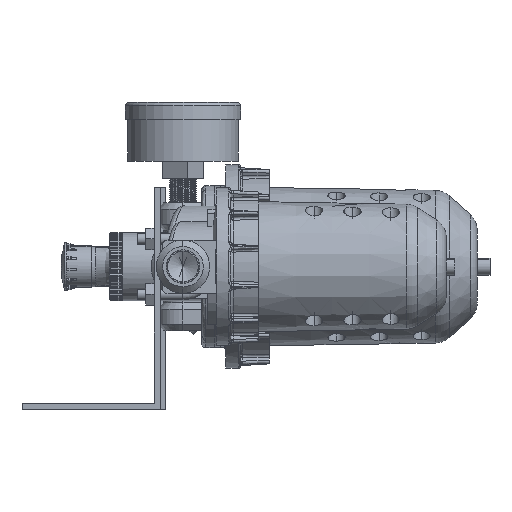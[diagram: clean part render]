
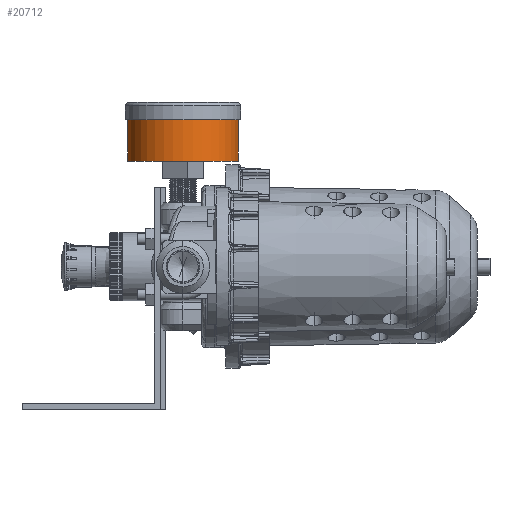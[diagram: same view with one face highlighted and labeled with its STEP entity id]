
A CAD part, left-side view. The second image highlights one B-rep face of the part: STEP entity #20712.
In plain terms, the highlighted cylindrical face has radius 26 mm (diameter 52 mm), a partial arc.
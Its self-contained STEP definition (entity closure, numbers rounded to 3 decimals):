
#3423 = DIRECTION ( 'NONE',  ( 0., 0., 1. ) ) ;
#7720 = EDGE_CURVE ( 'NONE', #17032, #22283, #11742, .T. ) ;
#7931 = AXIS2_PLACEMENT_3D ( 'NONE', #73998, #73722, #30214 ) ;
#9743 = ORIENTED_EDGE ( 'NONE', *, *, #34476, .F. ) ;
#10571 = ORIENTED_EDGE ( 'NONE', *, *, #7720, .T. ) ;
#11261 = FACE_OUTER_BOUND ( 'NONE', #39745, .T. ) ;
#11545 = ORIENTED_EDGE ( 'NONE', *, *, #61108, .T. ) ;
#11742 = LINE ( 'NONE', #12095, #40332 ) ;
#12095 = CARTESIAN_POINT ( 'NONE',  ( 0., 27.5, -26. ) ) ;
#13203 = DIRECTION ( 'NONE',  ( 0., 0., 1. ) ) ;
#14015 = DIRECTION ( 'NONE',  ( 0., 1., 0. ) ) ;
#15400 = VERTEX_POINT ( 'NONE', #38528 ) ;
#17032 = VERTEX_POINT ( 'NONE', #68976 ) ;
#18713 = VERTEX_POINT ( 'NONE', #65151 ) ;
#19935 = CARTESIAN_POINT ( 'NONE',  ( 0., 0., -26. ) ) ;
#20712 = ADVANCED_FACE ( 'NONE', ( #11261 ), #61542, .T. ) ;
#22283 = VERTEX_POINT ( 'NONE', #19935 ) ;
#24823 = DIRECTION ( 'NONE',  ( 0., -1., 0. ) ) ;
#27936 = DIRECTION ( 'NONE',  ( 0., -1., 0. ) ) ;
#30214 = DIRECTION ( 'NONE',  ( 0., 0., -1. ) ) ;
#31101 = CIRCLE ( 'NONE', #34487, 26. ) ;
#34241 = VECTOR ( 'NONE', #27936, 1000. ) ;
#34476 = EDGE_CURVE ( 'NONE', #18713, #15400, #80545, .T. ) ;
#34487 = AXIS2_PLACEMENT_3D ( 'NONE', #51737, #14015, #13203 ) ;
#38442 = CIRCLE ( 'NONE', #62277, 26. ) ;
#38528 = CARTESIAN_POINT ( 'NONE',  ( 0., 0., 26. ) ) ;
#39745 = EDGE_LOOP ( 'NONE', ( #9743, #57414, #10571, #11545 ) ) ;
#40332 = VECTOR ( 'NONE', #24823, 1000. ) ;
#41125 = CARTESIAN_POINT ( 'NONE',  ( 0., 0., 0. ) ) ;
#51737 = CARTESIAN_POINT ( 'NONE',  ( 0., 19.5, 0. ) ) ;
#57414 = ORIENTED_EDGE ( 'NONE', *, *, #66341, .F. ) ;
#61108 = EDGE_CURVE ( 'NONE', #22283, #15400, #38442, .T. ) ;
#61542 = CYLINDRICAL_SURFACE ( 'NONE', #7931, 26. ) ;
#62277 = AXIS2_PLACEMENT_3D ( 'NONE', #41125, #71732, #3423 ) ;
#65151 = CARTESIAN_POINT ( 'NONE',  ( 0., 19.5, 26. ) ) ;
#65640 = CARTESIAN_POINT ( 'NONE',  ( 0., 27.5, 26. ) ) ;
#66341 = EDGE_CURVE ( 'NONE', #17032, #18713, #31101, .T. ) ;
#68976 = CARTESIAN_POINT ( 'NONE',  ( 0., 19.5, -26. ) ) ;
#71732 = DIRECTION ( 'NONE',  ( 0., 1., 0. ) ) ;
#73722 = DIRECTION ( 'NONE',  ( 0., -1., 0. ) ) ;
#73998 = CARTESIAN_POINT ( 'NONE',  ( 0., 27.5, 0. ) ) ;
#80545 = LINE ( 'NONE', #65640, #34241 ) ;
